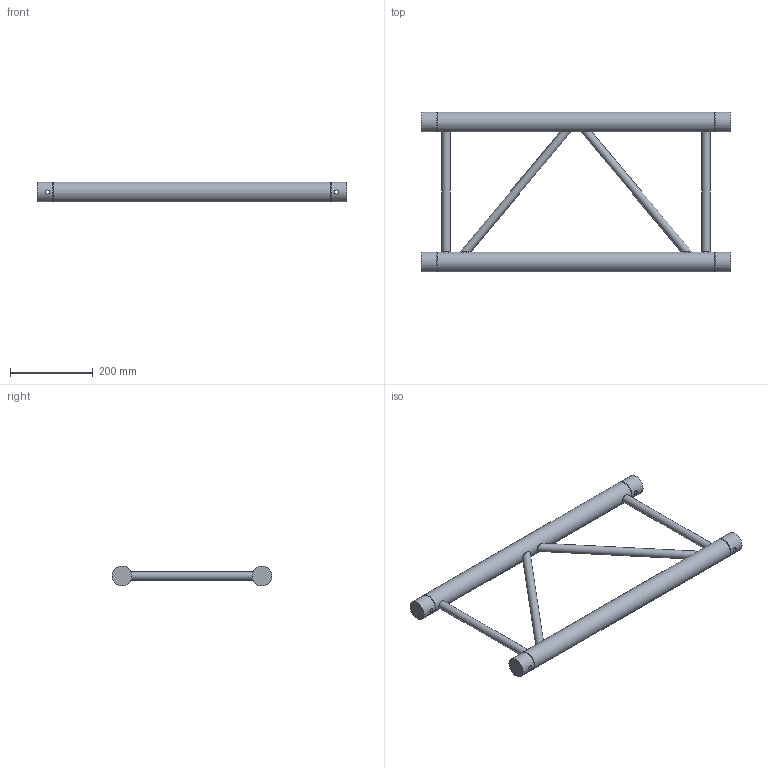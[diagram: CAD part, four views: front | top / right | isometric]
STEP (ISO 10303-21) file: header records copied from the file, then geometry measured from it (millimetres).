
FILE_DESCRIPTION(/* description */ (''),/* implementation_level */ '2;1');
FILE_NAME(/* name */ 'C:\Users\stephan\Desktop\Nieuwe map\H40L\111050149.stp',/* time_stamp */ '2016-09-12T12:50:01+02:00',/* author */ ('Stephan'),/* organization */ (''),/* preprocessor_version */ 'ST-DEVELOPER v15.6',/* originating_system */ 'Autodesk Inventor 2015',/* authorisation */ '');
FILE_SCHEMA (('AUTOMOTIVE_DESIGN { 1 0 10303 214 3 1 1 }'));
Length unit declared in the file: millimetre
Products named in the file (1): 160026980
Bounding box: 750 x 387.3 x 48.3 mm (x, y, z)
Volume: 1169627.8 mm3; surface area: 554802.8 mm2
Topology: 6 solids, 8 shells, 58 faces, 110 edges, 68 vertices
Faces by surface type: plane 32, cylinder 22, cone 4
Full cylindrical faces by diameter (mm): 10 x4, 16 x2, 20 x4, 41.8 x4, 42.3 x2, 48.3 x6
Entity records: 1756 total; most frequent: CARTESIAN_POINT 487, DIRECTION 234, ORIENTED_EDGE 184, EDGE_LOOP 112, AXIS2_PLACEMENT_3D 111, EDGE_CURVE 80, VERTEX_POINT 68, STYLED_ITEM 59
